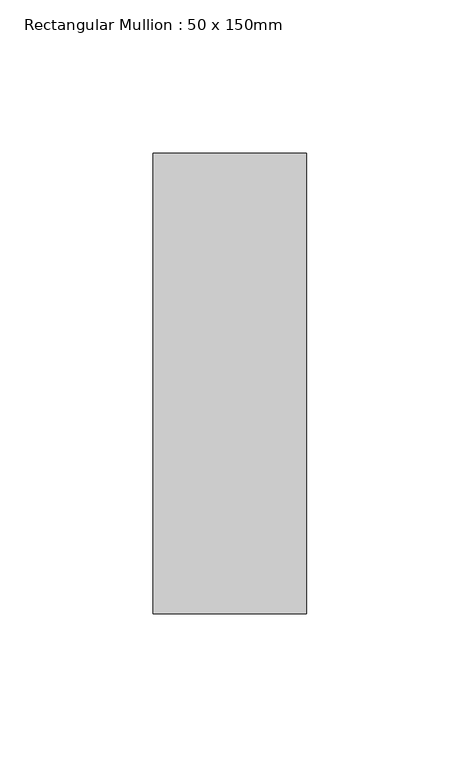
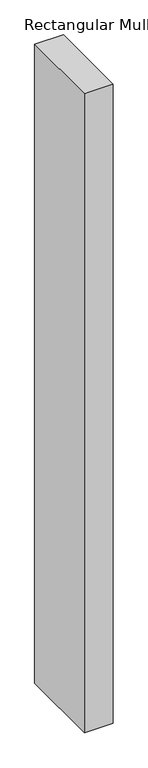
"""IFC4 building model written with IfcOpenShell, lengths in millimetres: member geometry, Rectangular Mullion : 50 x 150mm."""

from ifc_helpers import new_model, si_unit, frame, origin, place, context, project, spatial, polyline, outline, extrude, source, transform, mapped, element, save


def rectangular_mullion_50_x_150mm_3a321350(model_context):
    return source(origin(), model_context, "Body", "SweptSolid", [
        extrude(outline(polyline([(0.0, 75.0), (0.0, -75.0), (-50.0, -75.0), (-50.0, 75.0), (0.0, 75.0)])), frame((0.0, 0.0, -1175.0), z_axis=(0.0, 0.0, 1.0), x_axis=(1.0, 0.0, 0.0)), (0.0, 0.0, 1.0), 1175.0),
    ])


if __name__ == "__main__":
    model = new_model("IFC4")
    model_context = context("Model", 3, world=origin())
    ifc_project = project(units=[si_unit("LENGTHUNIT", "METRE", prefix="MILLI")], contexts=[model_context])
    site = spatial("IfcSite", under=ifc_project)
    building = spatial("IfcBuilding", under=site)
    placement = place(None, origin())
    rectangular_mullion_50_x_150mm_shape = rectangular_mullion_50_x_150mm_3a321350(model_context)
    element("IfcMember", 1, ObjectType="Rectangular Mullion : 50 x 150mm", at=placement, inside=building, context=model_context, shape_type="MappedRepresentation", body=[
        mapped(rectangular_mullion_50_x_150mm_shape, transform((0.0, 0.0, 0.0), x_axis=(1.0, 0.0, 0.0), y_axis=(0.0, 1.0, 0.0), z_axis=(0.0, 0.0, 1.0))),
    ])
    save(model, "model.ifc")
